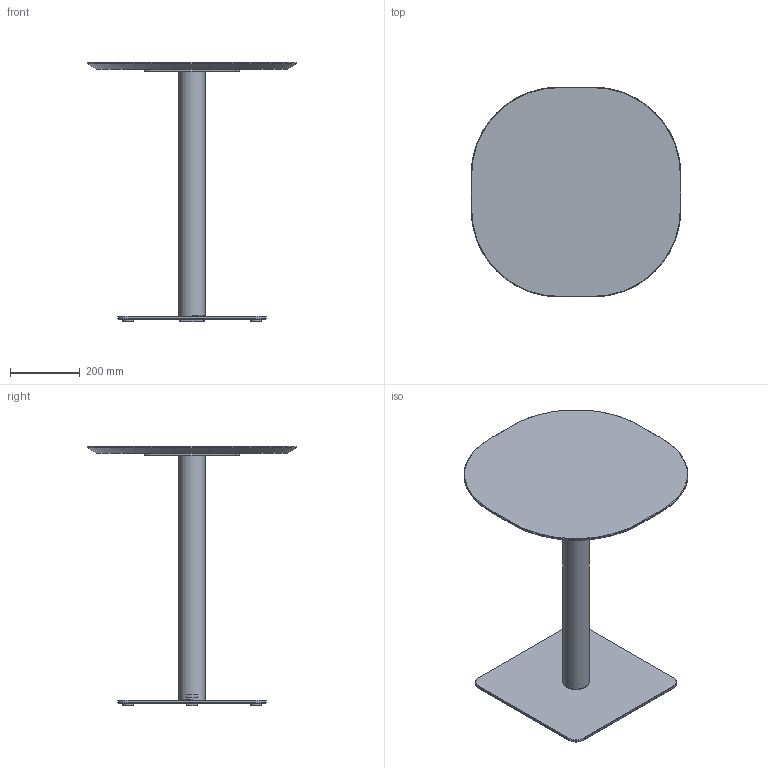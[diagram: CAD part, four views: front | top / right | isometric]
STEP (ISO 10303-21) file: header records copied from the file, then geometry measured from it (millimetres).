
FILE_DESCRIPTION( ('This file contains a STEP AP42 implementation' ,'as created by ZW3D STEP Interface translator.') ,'2;1' );
FILE_NAME( 'Henri - B_Carré - F2 - M5 - 600 x 600 x 750.stp' ,'24 912.165724', (''), ('ZWCAD Software Co.'), 'Version 1.0', 'ZW3D to STEP translator', '' );
FILE_SCHEMA(('AUTOMOTIVE_DESIGN { 1 0 10303 214 1 1 1 1 }'));
Length unit declared in the file: millimetre
Products named in the file (14): 0; PIED BISTROT PARAMETRIQUE_; COLONNE ACIER Ø76 V.02_; TUB-D076-02_; PLA-R76B-01_; CROIX ACIER 370 V.02_; CRX-X370-02_; SOCLE ACIER L 425x425 V.02_; SCL-R425-02_; PLA-R30A-01_; PLA-R30A-01; WUERTH 0276063020 Euro-screw 6.3x2 Verzinkt_; PLATEAU BISTROT PARAMETRIQUE_; insert_m6_13_
Assembly tree (22 placements, depth 3):
  0
  PIED BISTROT PARAMETRIQUE_
    COLONNE ACIER Ø76 V.02_
      TUB-D076-02_
      PLA-R76B-01_  x2
    CROIX ACIER 370 V.02_
      CRX-X370-02_
    SOCLE ACIER L 425x425 V.02_
      SCL-R425-02_
      PLA-R30A-01_
      PLA-R30A-01  x3
    WUERTH 0276063020 Euro-screw 6.3x2 Verzinkt_
    PLATEAU BISTROT PARAMETRIQUE_
      insert_m6_13_  x8
Bounding box: 600 x 600 x 744 mm (x, y, z)
Volume: 8129153 mm3; surface area: 1521695.6 mm2
Topology: 19 solids, 19 shells, 537 faces, 1310 edges, 822 vertices
Faces by surface type: plane 259, bspline 124, cylinder 98, cone 55, torus 1
Full cylindrical faces by diameter (mm): 4.88 x1, 6 x8, 6.3 x1, 8 x45, 12 x2, 14 x2, 30 x4, 72 x1, 76 x1
Entity records: 12353 total; most frequent: CARTESIAN_POINT 3470, ORIENTED_EDGE 1624, DIRECTION 1502, EDGE_CURVE 812, VERTEX_POINT 518, VECTOR 510, LINE 510, AXIS2_PLACEMENT_3D 496
